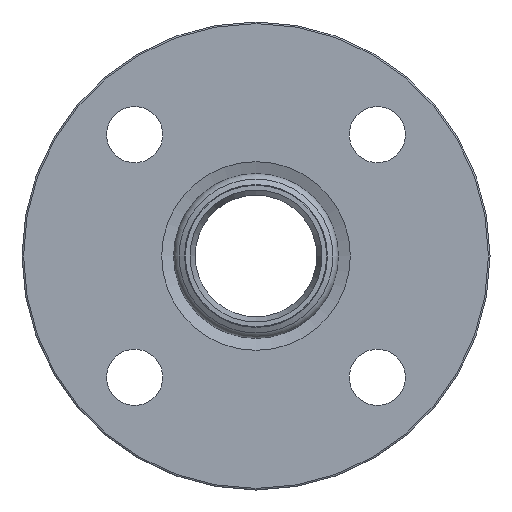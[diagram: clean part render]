
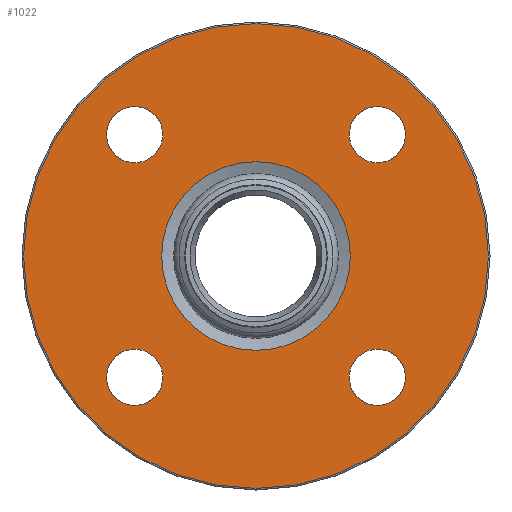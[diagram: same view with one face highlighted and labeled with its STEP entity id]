
A CAD part, left-side view. The second image highlights one B-rep face of the part: STEP entity #1022.
In plain terms, the highlighted planar face has unit normal (-1, 0, 0) as drawn and (0, 0, 1) by its records, which use the part's own axes.
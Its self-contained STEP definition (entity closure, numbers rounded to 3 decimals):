
#763=CARTESIAN_POINT('',(0.0,-30.221,0.));
#764=VERTEX_POINT('',#763);
#765=CARTESIAN_POINT('',(0.0,0.0,0.0));
#766=DIRECTION('',(0.0,0.0,-1.0));
#767=DIRECTION('',(0.0,-1.0,0.0));
#768=AXIS2_PLACEMENT_3D('',#765,#766,#767);
#769=CIRCLE('',#768,30.221);
#770=EDGE_CURVE('',#764,#764,#769,.T.);
#952=CARTESIAN_POINT('',(74.5,0.,0.0));
#953=VERTEX_POINT('',#952);
#954=CARTESIAN_POINT('',(0.0,0.0,0.0));
#955=DIRECTION('',(0.0,0.0,-1.0));
#956=DIRECTION('',(-1.0,0.0,0.0));
#957=AXIS2_PLACEMENT_3D('',#954,#955,#956);
#958=CIRCLE('',#957,74.5);
#959=EDGE_CURVE('',#953,#953,#958,.T.);
#967=CARTESIAN_POINT('',(0.0,0.0,0.0));
#968=DIRECTION('',(0.0,0.0,-1.0));
#969=DIRECTION('',(-1.0,0.0,0.0));
#970=AXIS2_PLACEMENT_3D('',#967,#968,#969);
#971=PLANE('',#970);
#972=ORIENTED_EDGE('',*,*,#959,.F.);
#973=EDGE_LOOP('',(#972));
#974=FACE_OUTER_BOUND('',#973,.T.);
#975=ORIENTED_EDGE('',*,*,#770,.T.);
#976=EDGE_LOOP('',(#975));
#977=FACE_BOUND('',#976,.T.);
#978=CARTESIAN_POINT('',(-29.891,38.891,0.0));
#979=VERTEX_POINT('',#978);
#980=CARTESIAN_POINT('',(-38.891,38.891,0.0));
#981=DIRECTION('',(0.0,0.0,-1.0));
#982=DIRECTION('',(-1.0,0.0,0.0));
#983=AXIS2_PLACEMENT_3D('',#980,#981,#982);
#984=CIRCLE('',#983,9.0);
#985=EDGE_CURVE('',#979,#979,#984,.T.);
#986=ORIENTED_EDGE('',*,*,#985,.T.);
#987=EDGE_LOOP('',(#986));
#988=FACE_BOUND('',#987,.T.);
#989=CARTESIAN_POINT('',(47.891,38.891,0.0));
#990=VERTEX_POINT('',#989);
#991=CARTESIAN_POINT('',(38.891,38.891,0.0));
#992=DIRECTION('',(0.0,0.0,-1.0));
#993=DIRECTION('',(-1.0,0.0,0.0));
#994=AXIS2_PLACEMENT_3D('',#991,#992,#993);
#995=CIRCLE('',#994,9.0);
#996=EDGE_CURVE('',#990,#990,#995,.T.);
#997=ORIENTED_EDGE('',*,*,#996,.T.);
#998=EDGE_LOOP('',(#997));
#999=FACE_BOUND('',#998,.T.);
#1000=CARTESIAN_POINT('',(47.891,-38.891,0.0));
#1001=VERTEX_POINT('',#1000);
#1002=CARTESIAN_POINT('',(38.891,-38.891,0.0));
#1003=DIRECTION('',(0.0,0.0,-1.0));
#1004=DIRECTION('',(-1.0,0.0,0.0));
#1005=AXIS2_PLACEMENT_3D('',#1002,#1003,#1004);
#1006=CIRCLE('',#1005,9.0);
#1007=EDGE_CURVE('',#1001,#1001,#1006,.T.);
#1008=ORIENTED_EDGE('',*,*,#1007,.T.);
#1009=EDGE_LOOP('',(#1008));
#1010=FACE_BOUND('',#1009,.T.);
#1011=CARTESIAN_POINT('',(-29.891,-38.891,0.0));
#1012=VERTEX_POINT('',#1011);
#1013=CARTESIAN_POINT('',(-38.891,-38.891,0.0));
#1014=DIRECTION('',(0.0,0.0,-1.0));
#1015=DIRECTION('',(-1.0,0.0,0.0));
#1016=AXIS2_PLACEMENT_3D('',#1013,#1014,#1015);
#1017=CIRCLE('',#1016,9.0);
#1018=EDGE_CURVE('',#1012,#1012,#1017,.T.);
#1019=ORIENTED_EDGE('',*,*,#1018,.T.);
#1020=EDGE_LOOP('',(#1019));
#1021=FACE_BOUND('',#1020,.T.);
#1022=ADVANCED_FACE('',(#974,#977,#988,#999,#1010,#1021),#971,.F.);
